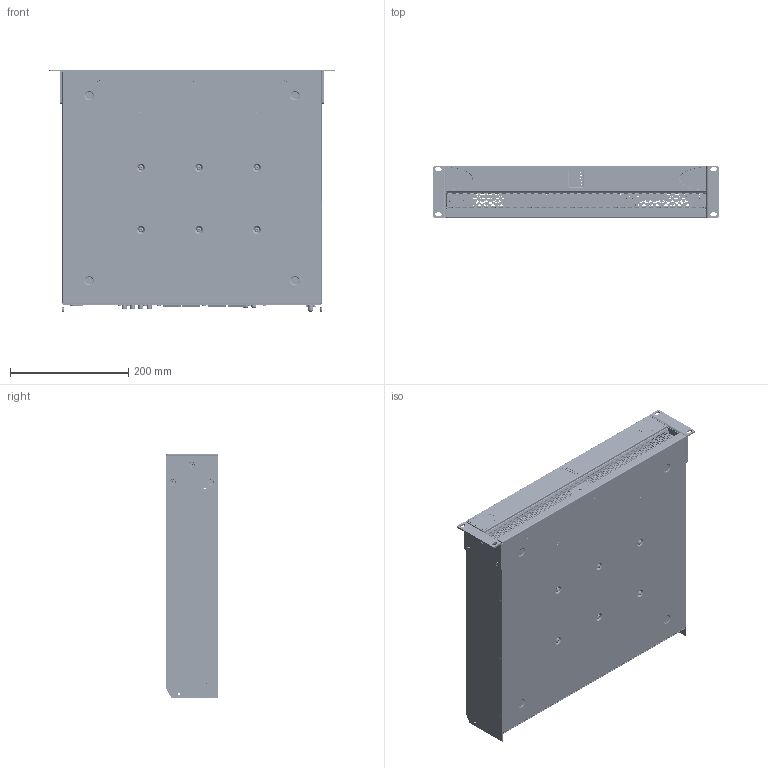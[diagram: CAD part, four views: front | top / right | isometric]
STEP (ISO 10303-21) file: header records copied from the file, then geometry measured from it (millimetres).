
FILE_DESCRIPTION (( 'STEP AP214' ), '1' );
FILE_NAME ('Blaze Powerzone Connect 4008 Amplifier.STEP', '2025-01-16T09:52:37', ( '' ), ( '' ), 'SwSTEP 2.0', 'SolidWorks 2024', '' );
FILE_SCHEMA (( 'AUTOMOTIVE_DESIGN' ));
Length unit declared in the file: millimetre
Products named in the file (2): 4008 for export_defeature^900-031-01; Blaze Powerzone Connect 4008 Amplifier
Assembly tree (1 placements, depth 2):
  Blaze Powerzone Connect 4008 Amplifier
    4008 for export_defeature^900-031-01
Bounding box: 482.4 x 88.5 x 414.05 mm (x, y, z)
Surface area: 1212970.7 mm2 (no closed solid volume)
Topology: 0 solids, 170 shells, 18001 faces, 49361 edges, 31844 vertices
Faces by surface type: plane 12210, cylinder 3892, cone 1053, bspline 344, torus 335, sphere 167
Entity records: 590280 total; most frequent: CARTESIAN_POINT 126208, ORIENTED_EDGE 98176, DIRECTION 92299, EDGE_CURVE 49187, VECTOR 37869, LINE 37869, VERTEX_POINT 31837, AXIS2_PLACEMENT_3D 27215
